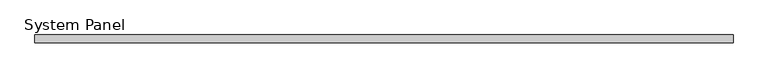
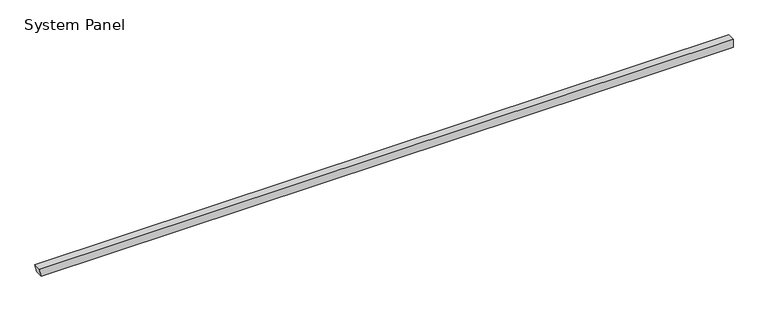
"""IFC4 building model written with IfcOpenShell, lengths in millimetres: plate geometry, System Panel : Equitilt_FlameGuard_75mm_Plain_Surfmist."""

from ifc_helpers import new_model, si_unit, frame, origin, place, context, project, spatial, polyline, outline, extrude, source, transform, mapped, element, save


def system_panel_6a607702(model_context):
    return source(origin(), model_context, "Body", "SweptSolid", [
        extrude(outline(polyline([(0.0, -3377.6149856), (0.0, 3395.0), (79.9704237, 3395.0), (79.9704237, -3395.0), (0.0, -3377.6149856)])), frame((0.0, -75.0, 0.0), z_axis=(0.0, 1.0, 0.0), x_axis=(0.0, 0.0, 1.0)), (0.0, 0.0, 1.0), 75.0),
    ])


if __name__ == "__main__":
    model = new_model("IFC4")
    model_context = context("Model", 3, world=origin())
    ifc_project = project(units=[si_unit("LENGTHUNIT", "METRE", prefix="MILLI")], contexts=[model_context])
    site = spatial("IfcSite", under=ifc_project)
    building = spatial("IfcBuilding", under=site)
    placement = place(None, origin())
    system_panel_shape = system_panel_6a607702(model_context)
    element("IfcPlate", 1, ObjectType="System Panel : Equitilt_FlameGuard_75mm_Plain_Surfmist", at=placement, inside=building, context=model_context, shape_type="MappedRepresentation", body=[
        mapped(system_panel_shape, transform((0.0, 0.0, 0.0), x_axis=(1.0, 0.0, 0.0), y_axis=(0.0, 1.0, 0.0), z_axis=(0.0, 0.0, 1.0))),
    ])
    save(model, "model.ifc")
